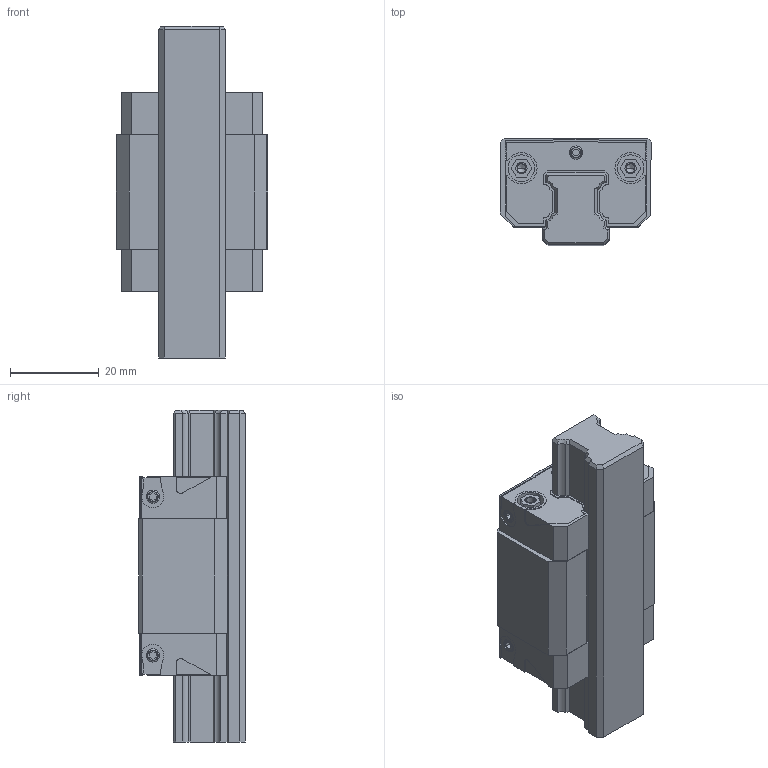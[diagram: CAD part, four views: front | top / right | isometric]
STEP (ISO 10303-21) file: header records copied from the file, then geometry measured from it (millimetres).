
FILE_DESCRIPTION((''),'2;1');
FILE_NAME('R1662_SIZE15_ASM','2020-04-16T04:02:00',('ac91sw'),(''),'CREO PARAMETRIC BY PTC INC, 2018420','CREO PARAMETRIC BY PTC INC, 2018420','');
FILE_SCHEMA(('AUTOMOTIVE_DESIGN { 1 0 10303 214 1 1 1 1 }'));
Length unit declared in the file: millimetre
Products named in the file (6): R1662_SIZE15_SKEL; R201010131; R200110102_Z; R343708901_Z; R1662_SIZE15_PSF; R1662_SIZE15_ASM
Assembly tree (11 placements, depth 2):
  R1662_SIZE15_ASM
    R1662_SIZE15_SKEL
    R201010131
    R200110102_Z  x2
    R343708901_Z  x6
    R1662_SIZE15_PSF
Bounding box: 34 x 24 x 74.7 mm (x, y, z)
Volume: 33652.6 mm3; surface area: 16708.1 mm2
Topology: 10 solids, 22 shells, 474 faces, 1224 edges, 782 vertices
Faces by surface type: plane 288, cylinder 130, cone 56
Entity records: 13008 total; most frequent: CARTESIAN_POINT 1663, DIRECTION 1372, ORIENTED_EDGE 1320, EDGE_CURVE 670, PROPERTY_DEFINITION 540, REPRESENTATION 533, PROPERTY_DEFINITION_REPRESENTATION 533, VECTOR 498
